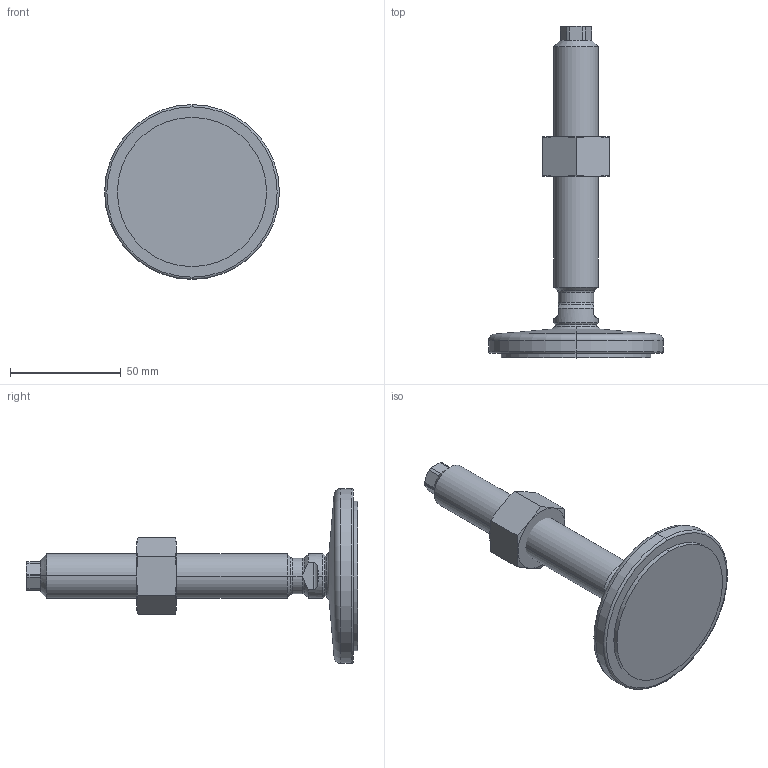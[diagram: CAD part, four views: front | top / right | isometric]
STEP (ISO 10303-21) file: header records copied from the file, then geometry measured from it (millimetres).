
FILE_DESCRIPTION (( 'STEP AP214' ), '1' );
FILE_NAME ('21-80-M20-125-D1-VK.step', '2020-10-02T17:36:32', ( '' ), ( '' ), 'SwSTEP 2.0', 'SolidWorks 2019', '' );
FILE_SCHEMA (( 'AUTOMOTIVE_DESIGN' ));
Length unit declared in the file: millimetre
Products named in the file (4): WB4032^WB21_V_M20; WB21_Fußteller 21^WB21_V_D1-080-R12-B9 (M20); WB21_Spindel_V^WB21_V_M20-125; 21-80-M20-125-D1-VK
Assembly tree (3 placements, depth 2):
  21-80-M20-125-D1-VK
    WB21_Fußteller 21^WB21_V_D1-080-R12-B9 (M20)
    WB21_Spindel_V^WB21_V_M20-125
    WB4032^WB21_V_M20
Bounding box: 79 x 150.02 x 79 mm (x, y, z)
Volume: 104205.2 mm3; surface area: 25114.7 mm2
Topology: 3 solids, 3 shells, 98 faces, 219 edges, 129 vertices
Faces by surface type: cone 29, plane 28, cylinder 27, torus 10, sphere 4
Entity records: 3117 total; most frequent: CARTESIAN_POINT 724, DIRECTION 476, ORIENTED_EDGE 438, EDGE_CURVE 219, AXIS2_PLACEMENT_3D 205, VERTEX_POINT 129, EDGE_LOOP 102, CIRCLE 101
